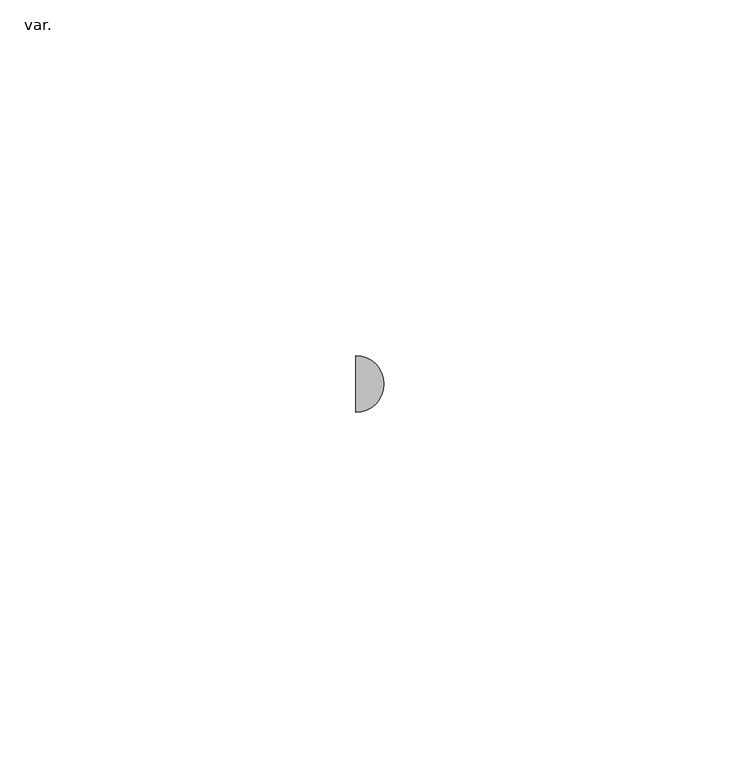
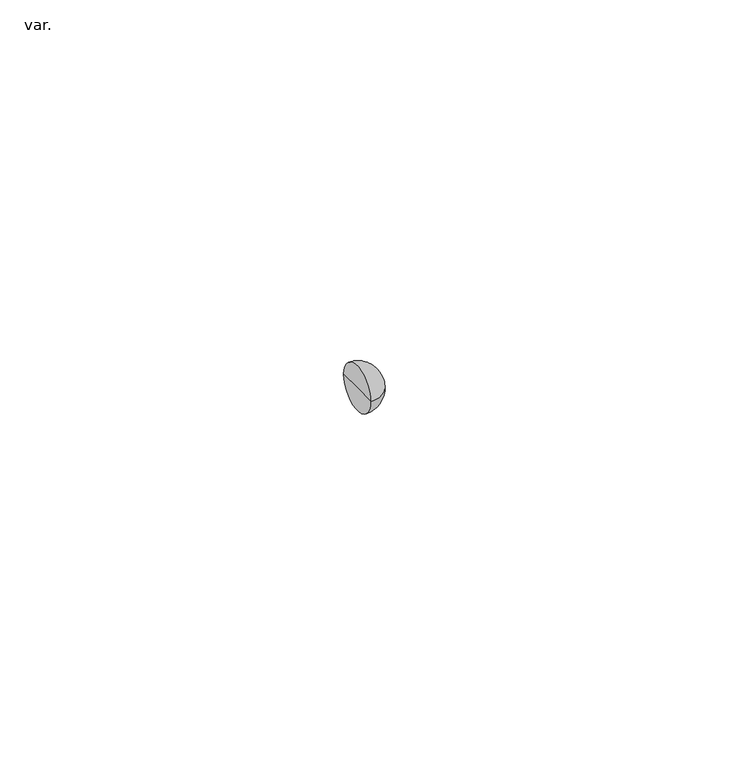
"""IFC4 building model written with IfcOpenShell, lengths in millimetres: pipe fitting geometry, NLRS_52_PIF_UN_Vacurain Flex multi bocht_Dyka : var.."""

from ifc_helpers import new_model, si_unit, point, frame, origin, place, context, project, spatial, circle_curve, ellipse_curve, trimmed, source, transform, mapped, element, save
from ifc_brep_helpers import plane_surface, revolved_surface, advanced_brep


def var_ae69e88d(model_context):
    return source(origin(), model_context, "Body", "AdvancedBrep", [
        advanced_brep(
        [(-246.7888886, -4.0, 0.0), (-246.7888886, 4.0, 0.0), (-242.7888886, 0.0, 0.0), (-246.7888886, 0.0, 0.0)],
        [
            (0, 1, circle_curve(frame((-246.7888886, 0.0, 0.0), z_axis=(1.0, 0.0, 0.0), x_axis=(0.0, 1.0, 0.0)), 4.0)),
            (1, 2, circle_curve(frame((-246.7888886, 0.0, 0.0), z_axis=(0.0, 0.0, -1.0), x_axis=(1.0, 0.0, 0.0)), 4.0)),
            (2, 0, circle_curve(frame((-246.7888886, 0.0, 0.0), z_axis=(0.0, 0.0, -1.0), x_axis=(1.0, 0.0, 0.0)), 4.0)),
            (1, 0, circle_curve(frame((-246.7888886, 0.0, 0.0), z_axis=(1.0, 0.0, 0.0), x_axis=(0.0, 1.0, 0.0)), 4.0)),
            (3, 1),
            (0, 3),
        ],
        [
            revolved_surface(trimmed(ellipse_curve(frame((-246.7888886, 0.0, 0.0), z_axis=(0.0, 0.0, 1.0), x_axis=(1.0, 0.0, 0.0)), 4.0, 4.0), [point((-242.7888886, 0.0, 0.0))], [point((-246.7888886, 4.0, 0.0))], True, "CARTESIAN"), (-244.7888886, 0.0, 0.0), (-1.0, 0.0, 0.0)),
            plane_surface(frame((-246.7888886, 0.0, 0.0), z_axis=(-1.0, 0.0, 0.0), x_axis=(0.0, 1.0, 0.0))),
        ],
        [
            (0, [[1, 2, 3]]),
            (0, [[4, -3, -2]]),
            (1, [[5, -1, 6]]),
            (1, [[-6, -4, -5]]),
        ],
    ),
    ])


if __name__ == "__main__":
    model = new_model("IFC4")
    model_context = context("Model", 3, world=origin())
    ifc_project = project(units=[si_unit("LENGTHUNIT", "METRE", prefix="MILLI")], contexts=[model_context])
    site = spatial("IfcSite", under=ifc_project)
    building = spatial("IfcBuilding", under=site)
    placement = place(None, origin())
    var_shape = var_ae69e88d(model_context)
    element("IfcPipeFitting", 1, ObjectType="NLRS_52_PIF_UN_Vacurain Flex multi bocht_Dyka : var.", at=placement, inside=building, context=model_context, shape_type="MappedRepresentation", body=[
        mapped(var_shape, transform((0.0, 0.0, 0.0), x_axis=(1.0, 0.0, 0.0), y_axis=(0.0, 1.0, 0.0), z_axis=(0.0, 0.0, 1.0))),
    ])
    save(model, "model.ifc")
